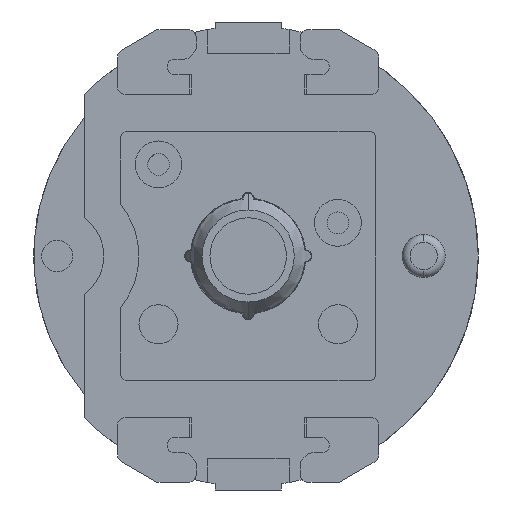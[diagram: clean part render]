
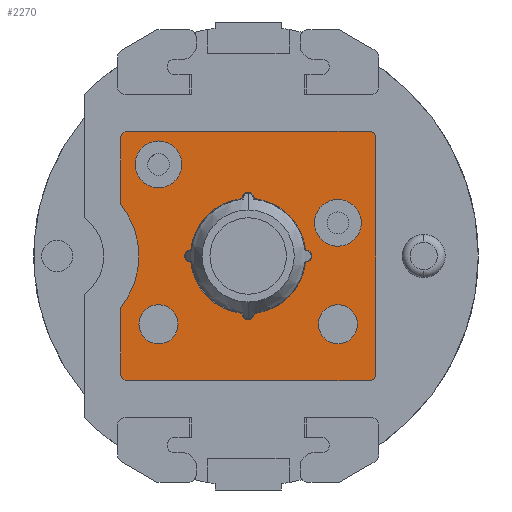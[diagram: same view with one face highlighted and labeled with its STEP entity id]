
A CAD part, front view. The second image highlights one B-rep face of the part: STEP entity #2270.
In plain terms, the highlighted planar face has unit normal (0, -1, 0).
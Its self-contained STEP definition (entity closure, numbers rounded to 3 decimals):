
#10=CARTESIAN_POINT('',(-3.8,0.08,0.));
#20=DIRECTION('',(0.,-1.,0.));
#30=DIRECTION('',(0.,0.,-1.));
#40=AXIS2_PLACEMENT_3D('',#10,#20,#30);
#50=PLANE('',#40);
#60=CARTESIAN_POINT('',(-3.1,0.08,3.03));
#70=DIRECTION('',(0.,-1.,0.));
#80=DIRECTION('',(0.,0.,1.));
#90=AXIS2_PLACEMENT_3D('',#60,#70,#80);
#100=CIRCLE('',#90,0.17);
#110=CARTESIAN_POINT('',(-3.1,0.08,3.2));
#120=VERTEX_POINT('',#110);
#130=CARTESIAN_POINT('',(-3.27,0.08,3.03));
#140=VERTEX_POINT('',#130);
#150=EDGE_CURVE('',#120,#140,#100,.T.);
#160=ORIENTED_EDGE('',*,*,#150,.T.);
#170=CARTESIAN_POINT('',(-3.1,0.08,3.2));
#180=DIRECTION('',(1.,0.,0.));
#190=VECTOR('',#180,1.);
#200=LINE('',#170,#190);
#210=CARTESIAN_POINT('',(3.1,0.08,3.2));
#220=VERTEX_POINT('',#210);
#230=EDGE_CURVE('',#120,#220,#200,.T.);
#240=ORIENTED_EDGE('',*,*,#230,.F.);
#250=CARTESIAN_POINT('',(3.1,0.08,3.03));
#260=DIRECTION('',(0.,-1.,0.));
#270=DIRECTION('',(1.,0.,0.));
#280=AXIS2_PLACEMENT_3D('',#250,#260,#270);
#290=CIRCLE('',#280,0.17);
#300=CARTESIAN_POINT('',(3.27,0.08,3.03));
#310=VERTEX_POINT('',#300);
#320=EDGE_CURVE('',#310,#220,#290,.T.);
#330=ORIENTED_EDGE('',*,*,#320,.T.);
#340=CARTESIAN_POINT('',(3.27,0.08,-3.03));
#350=DIRECTION('',(0.,0.,1.));
#360=VECTOR('',#350,1.);
#370=LINE('',#340,#360);
#380=CARTESIAN_POINT('',(3.27,0.08,-3.03));
#390=VERTEX_POINT('',#380);
#400=EDGE_CURVE('',#390,#310,#370,.T.);
#410=ORIENTED_EDGE('',*,*,#400,.T.);
#420=CARTESIAN_POINT('',(3.1,0.08,-3.03));
#430=DIRECTION('',(0.,-1.,-0.));
#440=DIRECTION('',(0.,0.,-1.));
#450=AXIS2_PLACEMENT_3D('',#420,#430,#440);
#460=CIRCLE('',#450,0.17);
#470=CARTESIAN_POINT('',(3.1,0.08,-3.2));
#480=VERTEX_POINT('',#470);
#490=EDGE_CURVE('',#480,#390,#460,.T.);
#500=ORIENTED_EDGE('',*,*,#490,.T.);
#510=CARTESIAN_POINT('',(3.1,0.08,-3.2));
#520=DIRECTION('',(-1.,0.,0.));
#530=VECTOR('',#520,1.);
#540=LINE('',#510,#530);
#550=CARTESIAN_POINT('',(-3.1,0.08,-3.2));
#560=VERTEX_POINT('',#550);
#570=EDGE_CURVE('',#480,#560,#540,.T.);
#580=ORIENTED_EDGE('',*,*,#570,.F.);
#590=CARTESIAN_POINT('',(-3.1,0.08,-3.03));
#600=DIRECTION('',(0.,-1.,0.));
#610=DIRECTION('',(-1.,0.,0.));
#620=AXIS2_PLACEMENT_3D('',#590,#600,#610);
#630=CIRCLE('',#620,0.17);
#640=CARTESIAN_POINT('',(-3.27,0.08,-3.03));
#650=VERTEX_POINT('',#640);
#660=EDGE_CURVE('',#650,#560,#630,.T.);
#670=ORIENTED_EDGE('',*,*,#660,.T.);
#680=CARTESIAN_POINT('',(-3.27,0.08,-1.324));
#690=DIRECTION('',(0.,0.,-1.));
#700=VECTOR('',#690,1.);
#710=LINE('',#680,#700);
#720=CARTESIAN_POINT('',(-3.27,0.08,-1.324));
#730=VERTEX_POINT('',#720);
#740=EDGE_CURVE('',#730,#650,#710,.T.);
#750=ORIENTED_EDGE('',*,*,#740,.T.);
#760=CARTESIAN_POINT('',(-4.9,0.08,0.));
#770=DIRECTION('',(-0.,1.,0.));
#780=DIRECTION('',(0.776,0.,0.63));
#790=AXIS2_PLACEMENT_3D('',#760,#770,#780);
#800=CIRCLE('',#790,2.1);
#810=CARTESIAN_POINT('',(-3.27,0.08,1.324));
#820=VERTEX_POINT('',#810);
#830=EDGE_CURVE('',#820,#730,#800,.T.);
#840=ORIENTED_EDGE('',*,*,#830,.T.);
#850=CARTESIAN_POINT('',(-3.27,0.08,3.03));
#860=DIRECTION('',(0.,0.,-1.));
#870=VECTOR('',#860,1.);
#880=LINE('',#850,#870);
#890=EDGE_CURVE('',#140,#820,#880,.T.);
#900=ORIENTED_EDGE('',*,*,#890,.T.);
#910=EDGE_LOOP('',(#900,#840,#750,#670,#580,#500,#410,#330,#240,#160));
#920=FACE_OUTER_BOUND('',#910,.T.);
#930=CARTESIAN_POINT('',(0.,0.08,-1.48));
#940=DIRECTION('',(-0.,1.,0.));
#950=DIRECTION('',(0.999,0.,0.051));
#960=AXIS2_PLACEMENT_3D('',#930,#940,#950);
#970=CIRCLE('',#960,0.15);
#980=CARTESIAN_POINT('',(0.15,0.08,-1.472));
#990=VERTEX_POINT('',#980);
#1000=CARTESIAN_POINT('',(-0.15,0.08,-1.472));
#1010=VERTEX_POINT('',#1000);
#1020=EDGE_CURVE('',#990,#1010,#970,.T.);
#1030=ORIENTED_EDGE('',*,*,#1020,.T.);
#1040=CARTESIAN_POINT('',(0.,0.08,0.));
#1050=DIRECTION('',(0.,1.,0.));
#1060=DIRECTION('',(0.995,0.,-0.101));
#1070=AXIS2_PLACEMENT_3D('',#1040,#1050,#1060);
#1080=CIRCLE('',#1070,1.48);
#1090=CARTESIAN_POINT('',(1.472,0.08,-0.15));
#1100=VERTEX_POINT('',#1090);
#1110=EDGE_CURVE('',#1100,#990,#1080,.T.);
#1120=ORIENTED_EDGE('',*,*,#1110,.T.);
#1130=CARTESIAN_POINT('',(1.48,0.08,0.));
#1140=DIRECTION('',(0.,1.,0.));
#1150=DIRECTION('',(-0.051,0.,0.999));
#1160=AXIS2_PLACEMENT_3D('',#1130,#1140,#1150);
#1170=CIRCLE('',#1160,0.15);
#1180=CARTESIAN_POINT('',(1.472,0.08,0.15));
#1190=VERTEX_POINT('',#1180);
#1200=EDGE_CURVE('',#1190,#1100,#1170,.T.);
#1210=ORIENTED_EDGE('',*,*,#1200,.T.);
#1220=CARTESIAN_POINT('',(0.,0.08,0.));
#1230=DIRECTION('',(-0.,1.,0.));
#1240=DIRECTION('',(0.101,0.,0.995));
#1250=AXIS2_PLACEMENT_3D('',#1220,#1230,#1240);
#1260=CIRCLE('',#1250,1.48);
#1270=CARTESIAN_POINT('',(0.15,0.08,1.472));
#1280=VERTEX_POINT('',#1270);
#1290=EDGE_CURVE('',#1280,#1190,#1260,.T.);
#1300=ORIENTED_EDGE('',*,*,#1290,.T.);
#1310=CARTESIAN_POINT('',(0.,0.08,1.48));
#1320=DIRECTION('',(0.,1.,0.));
#1330=DIRECTION('',(-0.999,0.,-0.051));
#1340=AXIS2_PLACEMENT_3D('',#1310,#1320,#1330);
#1350=CIRCLE('',#1340,0.15);
#1360=CARTESIAN_POINT('',(-0.15,0.08,1.472));
#1370=VERTEX_POINT('',#1360);
#1380=EDGE_CURVE('',#1370,#1280,#1350,.T.);
#1390=ORIENTED_EDGE('',*,*,#1380,.T.);
#1400=CARTESIAN_POINT('',(0.,0.08,0.));
#1410=DIRECTION('',(0.,1.,0.));
#1420=DIRECTION('',(-0.995,0.,0.101));
#1430=AXIS2_PLACEMENT_3D('',#1400,#1410,#1420);
#1440=CIRCLE('',#1430,1.48);
#1450=CARTESIAN_POINT('',(-1.472,0.08,0.15));
#1460=VERTEX_POINT('',#1450);
#1470=EDGE_CURVE('',#1460,#1370,#1440,.T.);
#1480=ORIENTED_EDGE('',*,*,#1470,.T.);
#1490=CARTESIAN_POINT('',(-1.48,0.08,0.));
#1500=DIRECTION('',(0.,1.,0.));
#1510=DIRECTION('',(0.051,0.,-0.999));
#1520=AXIS2_PLACEMENT_3D('',#1490,#1500,#1510);
#1530=CIRCLE('',#1520,0.15);
#1540=CARTESIAN_POINT('',(-1.472,0.08,
-0.15));
#1550=VERTEX_POINT('',#1540);
#1560=EDGE_CURVE('',#1550,#1460,#1530,.T.);
#1570=ORIENTED_EDGE('',*,*,#1560,.T.);
#1580=CARTESIAN_POINT('',(0.,0.08,0.));
#1590=DIRECTION('',(0.,1.,0.));
#1600=DIRECTION('',(-0.101,0.,-0.995));
#1610=AXIS2_PLACEMENT_3D('',#1580,#1590,#1600);
#1620=CIRCLE('',#1610,1.48);
#1630=EDGE_CURVE('',#1010,#1550,#1620,.T.);
#1640=ORIENTED_EDGE('',*,*,#1630,.T.);
#1650=EDGE_LOOP('',(#1640,#1570,#1480,#1390,#1300,#1210,#1120,#1030));
#1660=FACE_BOUND('',#1650,.T.);
#1670=CARTESIAN_POINT('',(-2.3,0.08,2.35));
#1680=DIRECTION('',(0.,1.,0.));
#1690=DIRECTION('',(0.,0.,1.));
#1700=AXIS2_PLACEMENT_3D('',#1670,#1680,#1690);
#1710=CIRCLE('',#1700,0.6);
#1720=CARTESIAN_POINT('',(-2.3,0.08,1.75));
#1730=VERTEX_POINT('',#1720);
#1740=CARTESIAN_POINT('',(-2.3,0.08,2.95));
#1750=VERTEX_POINT('',#1740);
#1760=EDGE_CURVE('',#1730,#1750,#1710,.T.);
#1770=ORIENTED_EDGE('',*,*,#1760,.T.);
#1780=EDGE_CURVE('',#1750,#1730,#1710,.T.);
#1790=ORIENTED_EDGE('',*,*,#1780,.T.);
#1800=EDGE_LOOP('',(#1790,#1770));
#1810=FACE_BOUND('',#1800,.T.);
#1820=CARTESIAN_POINT('',(2.3,0.08,0.85));
#1830=DIRECTION('',(-0.,1.,0.));
#1840=DIRECTION('',(0.,0.,1.));
#1850=AXIS2_PLACEMENT_3D('',#1820,#1830,#1840);
#1860=CIRCLE('',#1850,0.6);
#1870=CARTESIAN_POINT('',(2.3,0.08,1.45));
#1880=VERTEX_POINT('',#1870);
#1890=CARTESIAN_POINT('',(2.3,0.08,0.25));
#1900=VERTEX_POINT('',#1890);
#1910=EDGE_CURVE('',#1880,#1900,#1860,.T.);
#1920=ORIENTED_EDGE('',*,*,#1910,.T.);
#1930=EDGE_CURVE('',#1900,#1880,#1860,.T.);
#1940=ORIENTED_EDGE('',*,*,#1930,.T.);
#1950=EDGE_LOOP('',(#1940,#1920));
#1960=FACE_BOUND('',#1950,.T.);
#1970=CARTESIAN_POINT('',(2.3,0.08,-1.75));
#1980=DIRECTION('',(0.,1.,0.));
#1990=DIRECTION('',(0.,0.,1.));
#2000=AXIS2_PLACEMENT_3D('',#1970,#1980,#1990);
#2010=CIRCLE('',#2000,0.5);
#2020=CARTESIAN_POINT('',(2.3,0.08,-2.25));
#2030=VERTEX_POINT('',#2020);
#2040=CARTESIAN_POINT('',(2.3,0.08,-1.25));
#2050=VERTEX_POINT('',#2040);
#2060=EDGE_CURVE('',#2030,#2050,#2010,.T.);
#2070=ORIENTED_EDGE('',*,*,#2060,.T.);
#2080=EDGE_CURVE('',#2050,#2030,#2010,.T.);
#2090=ORIENTED_EDGE('',*,*,#2080,.T.);
#2100=EDGE_LOOP('',(#2090,#2070));
#2110=FACE_BOUND('',#2100,.T.);
#2120=CARTESIAN_POINT('',(-2.3,0.08,-1.75));
#2130=DIRECTION('',(0.,1.,0.));
#2140=DIRECTION('',(0.,0.,1.));
#2150=AXIS2_PLACEMENT_3D('',#2120,#2130,#2140);
#2160=CIRCLE('',#2150,0.5);
#2170=CARTESIAN_POINT('',(-2.3,0.08,-1.25));
#2180=VERTEX_POINT('',#2170);
#2190=CARTESIAN_POINT('',(-2.3,0.08,-2.25));
#2200=VERTEX_POINT('',#2190);
#2210=EDGE_CURVE('',#2180,#2200,#2160,.T.);
#2220=ORIENTED_EDGE('',*,*,#2210,.T.);
#2230=EDGE_CURVE('',#2200,#2180,#2160,.T.);
#2240=ORIENTED_EDGE('',*,*,#2230,.T.);
#2250=EDGE_LOOP('',(#2240,#2220));
#2260=FACE_BOUND('',#2250,.T.);
#2270=ADVANCED_FACE('',(#920,#1660,#1810,#1960,#2110,#2260),#50,.T.);
